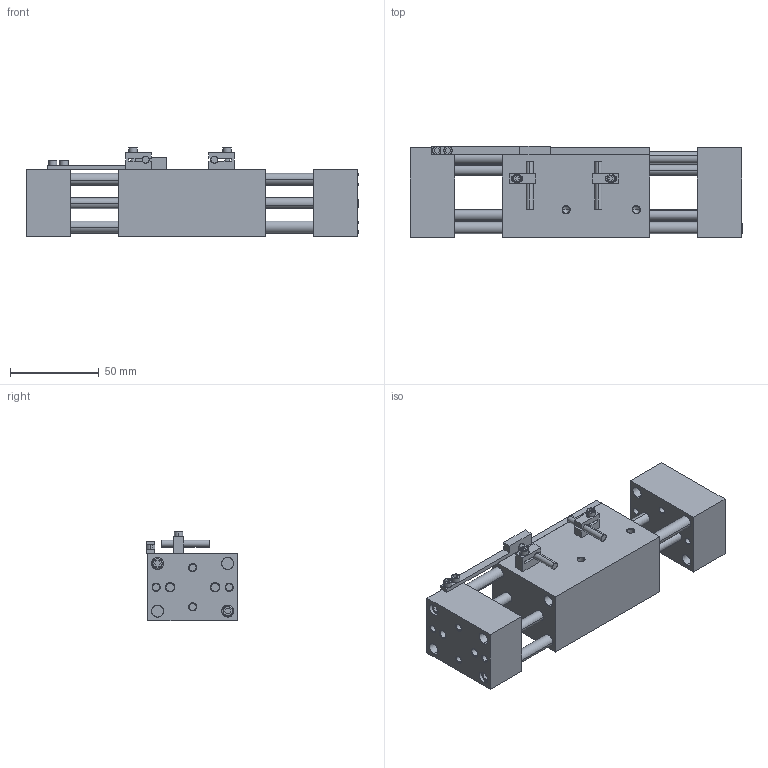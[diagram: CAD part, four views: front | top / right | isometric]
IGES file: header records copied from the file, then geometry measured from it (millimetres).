
Start section: SolidWorks IGES file using analytic representation for surfaces
Global section: file name: C:\Users\jmkuhnes\Pictures\AGW\AGW-375-2\AGW-375-2 OPEN in MM.IGS; native system: SolidWorks 2013; preprocessor: SolidWorks 2013; author: jmkuhnes; date: 141103.101814; units: millimetre
Bounding box: 187.45 x 51.51 x 50.8 mm (x, y, z)
Surface area: 67583.2 mm2 (no closed solid volume)
Topology: 0 solids, 0 shells, 396 faces, 5588 edges, 5568 vertices
Faces by surface type: revolution 226, bspline 170
